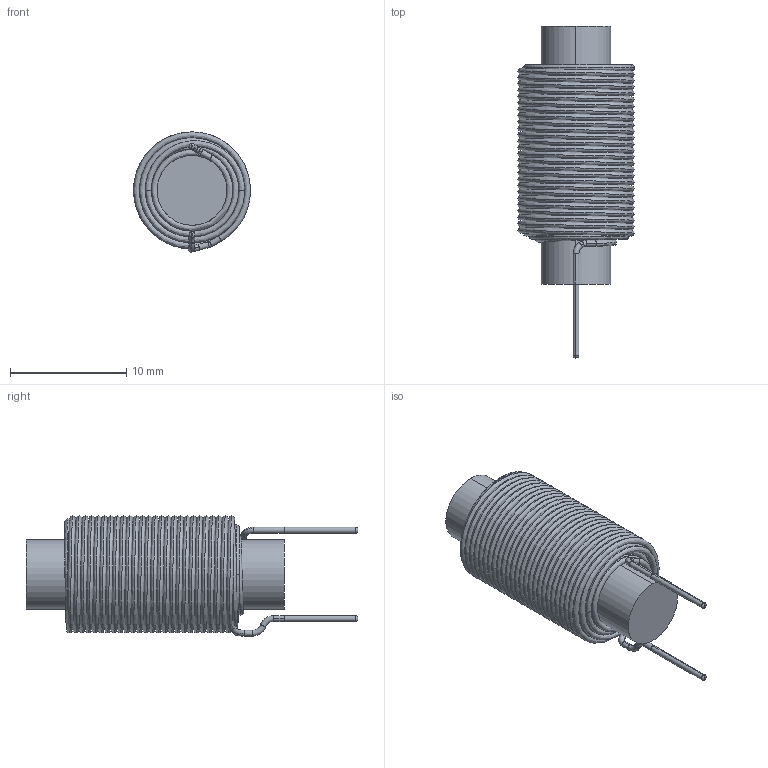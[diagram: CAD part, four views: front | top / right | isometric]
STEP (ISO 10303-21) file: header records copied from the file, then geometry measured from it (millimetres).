
FILE_DESCRIPTION (( 'STEP AP203' ), '1' );
FILE_NAME ('PV-104-01.STEP', '2020-09-25T09:46:58', ( 'Windows User' ), ( '' ), 'SwSTEP 2.0', 'SolidWorks 2015', '' );
FILE_SCHEMA (( 'CONFIG_CONTROL_DESIGN' ));
Length unit declared in the file: inch
Products named in the file (3): PV-104-01 - CORE; PV-104-01; PV-104-01 - COIL
Assembly tree (2 placements, depth 2):
  PV-104-01
    PV-104-01 - CORE
    PV-104-01 - COIL
Bounding box: 10.08 x 28.56 x 10.36 mm (x, y, z)
Volume: 1190.8 mm3; surface area: 4865 mm2
Topology: 12 solids, 12 shells, 80 faces, 168 edges, 112 vertices
Faces by surface type: plane 26, cylinder 24, torus 16, bspline 14
Entity records: 24332 total; most frequent: CARTESIAN_POINT 22379, DIRECTION 373, ORIENTED_EDGE 336, AXIS2_PLACEMENT_3D 175, EDGE_CURVE 168, VERTEX_POINT 112, CIRCLE 104, EDGE_LOOP 80
